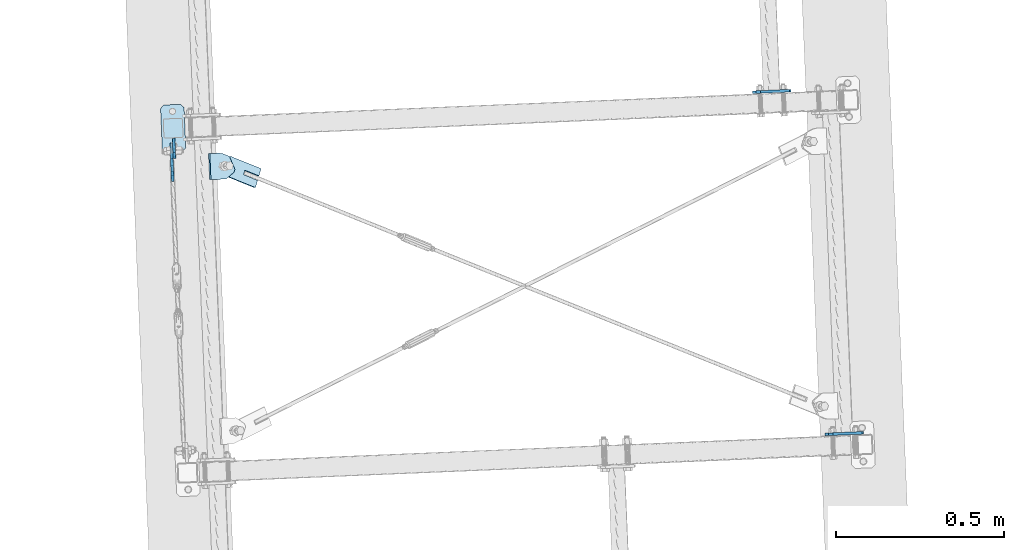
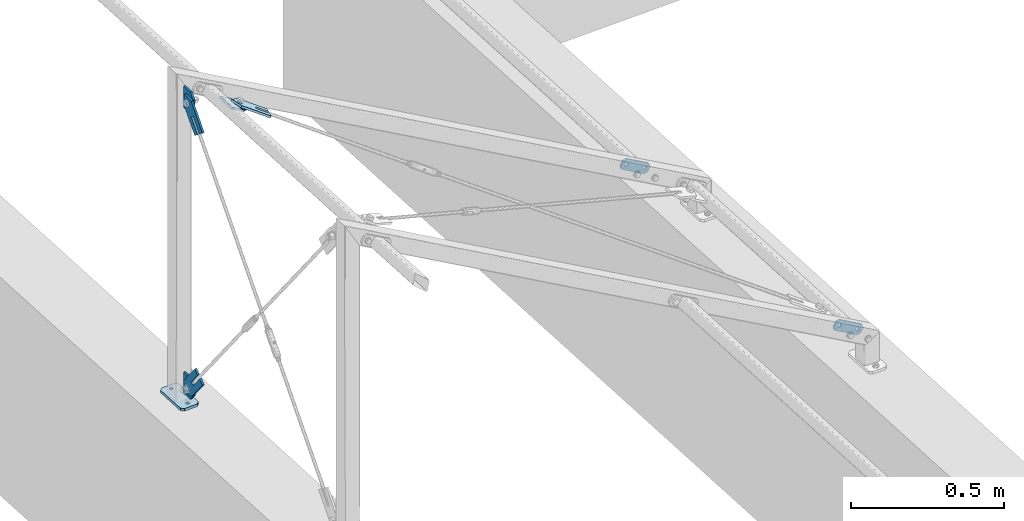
# One storey, part 49 of 288: 9 plates, 38 openings.
"""IFC2X3 building model written with IfcOpenShell, lengths in millimetres."""

from ifc_helpers import new_model, entity, si_unit, converted_unit, point, frame, frame_2d, origin, origin_with_axes, origin_2d_with_axis, place, context, project, spatial, polyline, circle_curve, line_curve, trimmed, segment, composite_curve, circle, outline, extrude, material, layer, layer_set, element, save


model = new_model("IFC2X3")

# Units and contexts
model_context = context("Model", 3, precision=1e-09, world=origin_with_axes())
ifc_project = project(units=[si_unit("LENGTHUNIT", "METRE", prefix="MILLI"), si_unit("AREAUNIT", "SQUARE_METRE"), si_unit("VOLUMEUNIT", "CUBIC_METRE"), converted_unit("PLANEANGLEUNIT", "DEGREE", entity("IfcPlaneAngleMeasure", 0.01745329), si_unit("PLANEANGLEUNIT", "RADIAN"), dimensions=[0, 0, 0, 0, 0, 0, 0])], contexts=[model_context])

# Site, building, storey
site_placement = place(None, origin_with_axes())
site = spatial("IfcSite", under=ifc_project, at=site_placement, Name="Remont ?wietlik?w nad MC w NCPP w Opolu", CompositionType="ELEMENT")
building_placement = place(site_placement, origin_with_axes())
building = spatial("IfcBuilding", under=site, at=building_placement, Name="Konstrukcja 1", CompositionType="ELEMENT")
storey_placement = place(building_placement, origin_with_axes())
storey = spatial("IfcBuildingStorey", under=building, at=storey_placement, Name="Default Storey", CompositionType="ELEMENT", Elevation=0.0)

# Plate, openings
ifc_material = material(Name="S235")
ifc_layer_1 = layer(ifc_material, 8.0)
ifc_layer_set_1 = layer_set([ifc_layer_1], Name="S235")
plate_1_placement = place(None, frame((1338.324064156, 10371.740296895, 149.752306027), z_axis=(-0.041662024, 0.999131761, 1.7472e-05), x_axis=(0.499566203, 0.020815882, 0.866025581)))
plate_1 = element("IfcPlate", 1, at=plate_1_placement, inside=storey, material=ifc_layer_set_1, Name="-", ObjectType="-", context=model_context, shape_type="SweptSolid", body=[
    extrude(outline(polyline([(0.0, 0.0), (40.0, 0.0), (40.0, 120.0), (0.0, 120.0), (0.0, 0.0)])), origin_with_axes(), (0.0, 0.0, 1.0), 8.0),
])
opening_1_placement = place(plate_1_placement, frame((0.0, 0.0, -0.01), z_axis=(0.0, 0.0, 1.0), x_axis=(1.0, 0.0, 0.0)))
element("IfcOpeningElement", 2, at=opening_1_placement, cuts=plate_1, ObjectType="Opening", context=model_context, shape_type="SweptSolid", body=[
    extrude(outline(composite_curve([segment(trimmed(line_curve((40.0, 0.0), (0.0, 1.0), 10.0), [point((40.0, 0.0))], [point((40.0, 10.0))], True, "CARTESIAN"), True, "CONTINUOUS"), segment(trimmed(circle_curve(frame_2d((30.0, 10.0), x_axis=(-1.0, 0.0)), 10.0), [point((40.0, 10.0))], [point((30.0, 0.0))], False, "CARTESIAN"), True, "CONTINUOUS"), segment(trimmed(line_curve((30.0, 0.0), (1.0, 0.0), 10.0), [point((30.0, 0.0))], [point((40.0, 0.0))], True, "CARTESIAN"), True, "CONTINUOUS")], self_intersect=False)), origin(), (0.0, 0.0, 1.0), 8.02),
])
opening_2_placement = place(plate_1_placement, frame((0.0, 0.0, -0.01), z_axis=(0.0, 0.0, 1.0), x_axis=(1.0, 0.0, 0.0)))
element("IfcOpeningElement", 3, at=opening_2_placement, cuts=plate_1, ObjectType="Opening", context=model_context, shape_type="SweptSolid", body=[
    extrude(outline(composite_curve([segment(trimmed(line_curve((0.0, 0.0), (1.0, 0.0), 10.0), [point((0.0, 0.0))], [point((10.0, 0.0))], True, "CARTESIAN"), True, "CONTINUOUS"), segment(trimmed(circle_curve(frame_2d((10.0, 10.0), x_axis=(-1.0, 0.0)), 10.0), [point((10.0, 0.0))], [point((0.0, 10.0))], False, "CARTESIAN"), True, "CONTINUOUS"), segment(trimmed(line_curve((0.0, 10.0), (0.0, -1.0), 10.0), [point((0.0, 10.0))], [point((0.0, 0.0))], True, "CARTESIAN"), True, "CONTINUOUS")], self_intersect=False)), origin(), (0.0, 0.0, 1.0), 8.02),
])
opening_3_placement = place(plate_1_placement, frame((0.0, 0.0, -0.01), z_axis=(0.0, 0.0, 1.0), x_axis=(1.0, 0.0, 0.0)))
element("IfcOpeningElement", 4, at=opening_3_placement, cuts=plate_1, ObjectType="Opening", context=model_context, shape_type="SweptSolid", body=[
    extrude(outline(composite_curve([segment(trimmed(line_curve((40.0, 120.0), (-1.0, 0.0), 10.0), [point((40.0, 120.0))], [point((30.0, 120.0))], True, "CARTESIAN"), True, "CONTINUOUS"), segment(trimmed(circle_curve(frame_2d((30.0, 110.0), x_axis=(-1.0, 0.0)), 10.0), [point((30.0, 120.0))], [point((40.0, 110.0))], False, "CARTESIAN"), True, "CONTINUOUS"), segment(trimmed(line_curve((40.0, 110.0), (0.0, 1.0), 10.0), [point((40.0, 110.0))], [point((40.0, 120.0))], True, "CARTESIAN"), True, "CONTINUOUS")], self_intersect=False)), origin(), (0.0, 0.0, 1.0), 8.02),
])
opening_4_placement = place(plate_1_placement, frame((0.0, 0.0, -0.01), z_axis=(0.0, 0.0, 1.0), x_axis=(1.0, 0.0, 0.0)))
element("IfcOpeningElement", 5, at=opening_4_placement, cuts=plate_1, ObjectType="Opening", context=model_context, shape_type="SweptSolid", body=[
    extrude(outline(composite_curve([segment(trimmed(line_curve((0.0, 120.0), (0.0, -1.0), 10.0), [point((0.0, 120.0))], [point((0.0, 110.0))], True, "CARTESIAN"), True, "CONTINUOUS"), segment(trimmed(circle_curve(frame_2d((10.0, 110.0), x_axis=(-1.0, 0.0)), 10.0), [point((0.0, 110.0))], [point((10.0, 120.0))], False, "CARTESIAN"), True, "CONTINUOUS"), segment(trimmed(line_curve((10.0, 120.0), (-1.0, 0.0), 10.0), [point((10.0, 120.0))], [point((0.0, 120.0))], True, "CARTESIAN"), True, "CONTINUOUS")], self_intersect=False)), origin(), (0.0, 0.0, 1.0), 8.02),
])
opening_5_placement = place(plate_1_placement, frame((19.99842578, 27.001033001, 8.499903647), z_axis=(-2.0054e-05, 4.2e-07, 1.0), x_axis=(1.0, 0.0, 2.0054e-05)))
element("IfcOpeningElement", 6, at=opening_5_placement, cuts=plate_1, ObjectType="Opening", context=model_context, shape_type="SweptSolid", body=[
    extrude(circle(Radius=7.001, at=frame_2d((-4e-09, -7.001), x_axis=(1.0, 0.0))), origin(), (0.0, 0.0, -1.0), 9.000033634),
])
opening_6_placement = place(plate_1_placement, frame((19.998425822, 107.001033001, 8.499870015), z_axis=(-2.0054e-05, 4.2e-07, 1.0), x_axis=(1.0, 0.0, 2.0054e-05)))
element("IfcOpeningElement", 7, at=opening_6_placement, cuts=plate_1, ObjectType="Opening", context=model_context, shape_type="SweptSolid", body=[
    extrude(circle(Radius=7.001, at=frame_2d((-4e-09, -7.001), x_axis=(1.0, 0.0))), origin(), (0.0, 0.0, -1.0), 9.000033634),
])

plate_2_placement = place(None, frame((1122.531028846, 11389.467105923, 249.77016734), z_axis=(-0.041662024, 0.999131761, 1.7472e-05), x_axis=(0.499566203, 0.020815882, 0.866025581)))
plate_2 = element("IfcPlate", 8, at=plate_2_placement, inside=storey, material=ifc_layer_set_1, Name="-", ObjectType="-", context=model_context, shape_type="SweptSolid", body=[
    extrude(outline(polyline([(0.0, 0.0), (40.0, 0.0), (40.0, 120.0), (0.0, 120.0), (0.0, 0.0)])), origin_with_axes(), (0.0, 0.0, 1.0), 8.0),
])
opening_7_placement = place(plate_2_placement, frame((0.0, 0.0, -0.01), z_axis=(0.0, 0.0, 1.0), x_axis=(1.0, 0.0, 0.0)))
element("IfcOpeningElement", 9, at=opening_7_placement, cuts=plate_2, ObjectType="Opening", context=model_context, shape_type="SweptSolid", body=[
    extrude(outline(composite_curve([segment(trimmed(line_curve((40.0, 0.0), (0.0, 1.0), 10.0), [point((40.0, 0.0))], [point((40.0, 10.0))], True, "CARTESIAN"), True, "CONTINUOUS"), segment(trimmed(circle_curve(frame_2d((30.0, 10.0), x_axis=(-1.0, 0.0)), 10.0), [point((40.0, 10.0))], [point((30.0, 0.0))], False, "CARTESIAN"), True, "CONTINUOUS"), segment(trimmed(line_curve((30.0, 0.0), (1.0, 0.0), 10.0), [point((30.0, 0.0))], [point((40.0, 0.0))], True, "CARTESIAN"), True, "CONTINUOUS")], self_intersect=False)), origin(), (0.0, 0.0, 1.0), 8.02),
])
opening_8_placement = place(plate_2_placement, frame((0.0, 0.0, -0.01), z_axis=(0.0, 0.0, 1.0), x_axis=(1.0, 0.0, 0.0)))
element("IfcOpeningElement", 10, at=opening_8_placement, cuts=plate_2, ObjectType="Opening", context=model_context, shape_type="SweptSolid", body=[
    extrude(outline(composite_curve([segment(trimmed(line_curve((0.0, 0.0), (1.0, 0.0), 10.0), [point((0.0, 0.0))], [point((10.0, 0.0))], True, "CARTESIAN"), True, "CONTINUOUS"), segment(trimmed(circle_curve(frame_2d((10.0, 10.0), x_axis=(-1.0, 0.0)), 10.0), [point((10.0, 0.0))], [point((0.0, 10.0))], False, "CARTESIAN"), True, "CONTINUOUS"), segment(trimmed(line_curve((0.0, 10.0), (0.0, -1.0), 10.0), [point((0.0, 10.0))], [point((0.0, 0.0))], True, "CARTESIAN"), True, "CONTINUOUS")], self_intersect=False)), origin(), (0.0, 0.0, 1.0), 8.02),
])
opening_9_placement = place(plate_2_placement, frame((0.0, 0.0, -0.01), z_axis=(0.0, 0.0, 1.0), x_axis=(1.0, 0.0, 0.0)))
element("IfcOpeningElement", 11, at=opening_9_placement, cuts=plate_2, ObjectType="Opening", context=model_context, shape_type="SweptSolid", body=[
    extrude(outline(composite_curve([segment(trimmed(line_curve((40.0, 120.0), (-1.0, 0.0), 10.0), [point((40.0, 120.0))], [point((30.0, 120.0))], True, "CARTESIAN"), True, "CONTINUOUS"), segment(trimmed(circle_curve(frame_2d((30.0, 110.0), x_axis=(-1.0, 0.0)), 10.0), [point((30.0, 120.0))], [point((40.0, 110.0))], False, "CARTESIAN"), True, "CONTINUOUS"), segment(trimmed(line_curve((40.0, 110.0), (0.0, 1.0), 10.0), [point((40.0, 110.0))], [point((40.0, 120.0))], True, "CARTESIAN"), True, "CONTINUOUS")], self_intersect=False)), origin(), (0.0, 0.0, 1.0), 8.02),
])
opening_10_placement = place(plate_2_placement, frame((0.0, 0.0, -0.01), z_axis=(0.0, 0.0, 1.0), x_axis=(1.0, 0.0, 0.0)))
element("IfcOpeningElement", 12, at=opening_10_placement, cuts=plate_2, ObjectType="Opening", context=model_context, shape_type="SweptSolid", body=[
    extrude(outline(composite_curve([segment(trimmed(line_curve((0.0, 120.0), (0.0, -1.0), 10.0), [point((0.0, 120.0))], [point((0.0, 110.0))], True, "CARTESIAN"), True, "CONTINUOUS"), segment(trimmed(circle_curve(frame_2d((10.0, 110.0), x_axis=(-1.0, 0.0)), 10.0), [point((0.0, 110.0))], [point((10.0, 120.0))], False, "CARTESIAN"), True, "CONTINUOUS"), segment(trimmed(line_curve((10.0, 120.0), (-1.0, 0.0), 10.0), [point((10.0, 120.0))], [point((0.0, 120.0))], True, "CARTESIAN"), True, "CONTINUOUS")], self_intersect=False)), origin(), (0.0, 0.0, 1.0), 8.02),
])
opening_11_placement = place(plate_2_placement, frame((19.99842578, 27.001033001, 8.499903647), z_axis=(-2.0054e-05, 4.2e-07, 1.0), x_axis=(1.0, 0.0, 2.0054e-05)))
element("IfcOpeningElement", 13, at=opening_11_placement, cuts=plate_2, ObjectType="Opening", context=model_context, shape_type="SweptSolid", body=[
    extrude(circle(Radius=7.001, at=frame_2d((-4e-09, -7.001), x_axis=(1.0, 0.0))), origin(), (0.0, 0.0, -1.0), 9.000033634),
])
opening_12_placement = place(plate_2_placement, frame((19.998425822, 107.001033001, 8.499870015), z_axis=(-2.0054e-05, 4.2e-07, 1.0), x_axis=(1.0, 0.0, 2.0054e-05)))
element("IfcOpeningElement", 14, at=opening_12_placement, cuts=plate_2, ObjectType="Opening", context=model_context, shape_type="SweptSolid", body=[
    extrude(circle(Radius=7.001, at=frame_2d((-4e-09, -7.001), x_axis=(1.0, 0.0))), origin(), (0.0, 0.0, -1.0), 9.000033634),
])

ifc_layer_2 = layer(ifc_material, 10.0)
ifc_layer_set_2 = layer_set([ifc_layer_2], Name="S235")
plate_3_placement = place(None, frame((-633.74490734, 11355.250119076, 10.000000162), z_axis=(0.0, 0.0, -1.0), x_axis=(0.999131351, 0.041671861, 0.0)))
plate_3 = element("IfcPlate", 15, at=plate_3_placement, inside=storey, material=ifc_layer_set_2, Name="Baseplate", ObjectType="Baseplate", context=model_context, shape_type="SweptSolid", body=[
    extrude(outline(polyline([(0.0, 0.0), (70.0, 0.0), (70.0, 140.0), (0.0, 140.0), (0.0, 0.0)])), origin_with_axes(), (0.0, 0.0, 1.0), 10.0),
])
opening_13_placement = place(plate_3_placement, frame((0.0, 0.0, -0.01), z_axis=(0.0, 0.0, 1.0), x_axis=(1.0, 0.0, 0.0)))
element("IfcOpeningElement", 16, at=opening_13_placement, cuts=plate_3, ObjectType="Opening", context=model_context, shape_type="SweptSolid", body=[
    extrude(outline(composite_curve([segment(trimmed(line_curve((70.0, 0.0), (0.0, 1.0), 10.0), [point((70.0, 0.0))], [point((70.0, 10.0))], True, "CARTESIAN"), True, "CONTINUOUS"), segment(trimmed(circle_curve(frame_2d((60.0, 10.0), x_axis=(-1.0, 0.0)), 10.0), [point((70.0, 10.0))], [point((60.0, 0.0))], False, "CARTESIAN"), True, "CONTINUOUS"), segment(trimmed(line_curve((60.0, 0.0), (1.0, 0.0), 10.0), [point((60.0, 0.0))], [point((70.0, 0.0))], True, "CARTESIAN"), True, "CONTINUOUS")], self_intersect=False)), origin(), (0.0, 0.0, 1.0), 10.02),
])
opening_14_placement = place(plate_3_placement, frame((0.0, 0.0, -0.01), z_axis=(0.0, 0.0, 1.0), x_axis=(1.0, 0.0, 0.0)))
element("IfcOpeningElement", 17, at=opening_14_placement, cuts=plate_3, ObjectType="Opening", context=model_context, shape_type="SweptSolid", body=[
    extrude(outline(composite_curve([segment(trimmed(line_curve((0.0, 0.0), (1.0, 0.0), 10.0), [point((0.0, 0.0))], [point((10.0, 0.0))], True, "CARTESIAN"), True, "CONTINUOUS"), segment(trimmed(circle_curve(frame_2d((10.0, 10.0), x_axis=(-1.0, 0.0)), 10.0), [point((10.0, 0.0))], [point((0.0, 10.0))], False, "CARTESIAN"), True, "CONTINUOUS"), segment(trimmed(line_curve((0.0, 10.0), (0.0, -1.0), 10.0), [point((0.0, 10.0))], [point((0.0, 0.0))], True, "CARTESIAN"), True, "CONTINUOUS")], self_intersect=False)), origin(), (0.0, 0.0, 1.0), 10.02),
])
opening_15_placement = place(plate_3_placement, frame((0.0, 0.0, -0.01), z_axis=(0.0, 0.0, 1.0), x_axis=(1.0, 0.0, 0.0)))
element("IfcOpeningElement", 18, at=opening_15_placement, cuts=plate_3, ObjectType="Opening", context=model_context, shape_type="SweptSolid", body=[
    extrude(outline(composite_curve([segment(trimmed(line_curve((70.0, 140.0), (-1.0, 0.0), 10.0), [point((70.0, 140.0))], [point((60.0, 140.0))], True, "CARTESIAN"), True, "CONTINUOUS"), segment(trimmed(circle_curve(frame_2d((60.0, 130.0), x_axis=(-1.0, 0.0)), 10.0), [point((60.0, 140.0))], [point((70.0, 130.0))], False, "CARTESIAN"), True, "CONTINUOUS"), segment(trimmed(line_curve((70.0, 130.0), (0.0, 1.0), 10.0), [point((70.0, 130.0))], [point((70.0, 140.0))], True, "CARTESIAN"), True, "CONTINUOUS")], self_intersect=False)), origin(), (0.0, 0.0, 1.0), 10.02),
])
opening_16_placement = place(plate_3_placement, frame((0.0, 0.0, -0.01), z_axis=(0.0, 0.0, 1.0), x_axis=(1.0, 0.0, 0.0)))
element("IfcOpeningElement", 19, at=opening_16_placement, cuts=plate_3, ObjectType="Opening", context=model_context, shape_type="SweptSolid", body=[
    extrude(outline(composite_curve([segment(trimmed(line_curve((0.0, 140.0), (0.0, -1.0), 10.0), [point((0.0, 140.0))], [point((0.0, 130.0))], True, "CARTESIAN"), True, "CONTINUOUS"), segment(trimmed(circle_curve(frame_2d((10.0, 130.0), x_axis=(-1.0, 0.0)), 10.0), [point((0.0, 130.0))], [point((10.0, 140.0))], False, "CARTESIAN"), True, "CONTINUOUS"), segment(trimmed(line_curve((10.0, 140.0), (-1.0, 0.0), 10.0), [point((10.0, 140.0))], [point((0.0, 140.0))], True, "CARTESIAN"), True, "CONTINUOUS")], self_intersect=False)), origin(), (0.0, 0.0, 1.0), 10.02),
])
opening_17_placement = place(plate_3_placement, frame((35.0, 20.0, 10.5), z_axis=(0.0, 0.0, -1.0), x_axis=(1.0, 0.0, 0.0)))
element("IfcOpeningElement", 20, at=opening_17_placement, cuts=plate_3, ObjectType="Opening", context=model_context, shape_type="SweptSolid", body=[
    extrude(circle(Radius=6.001, at=origin_2d_with_axis()), origin(), (0.0, 0.0, 1.0), 11.0),
])
opening_18_placement = place(plate_3_placement, frame((35.0, 120.0, 10.5), z_axis=(0.0, 0.0, -1.0), x_axis=(1.0, 0.0, 0.0)))
element("IfcOpeningElement", 21, at=opening_18_placement, cuts=plate_3, ObjectType="Opening", context=model_context, shape_type="SweptSolid", body=[
    extrude(circle(Radius=6.001, at=origin_2d_with_axis()), origin(), (0.0, 0.0, 1.0), 11.0),
])

plate_4_placement = place(None, frame((-601.2421651, 11127.890252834, 1154.494492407), z_axis=(0.999131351, 0.041671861, 0.0), x_axis=(-0.03279022, 0.786183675, -0.617122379)))
plate_4 = element("IfcPlate", 22, at=plate_4_placement, inside=storey, material=ifc_layer_set_1, Name="Tab_Plate#2", ObjectType="Tab_Plate#2", context=model_context, shape_type="SweptSolid", body=[
    extrude(outline(polyline([(0.0, 0.0), (60.0, 0.0), (60.0, 140.0), (0.0, 140.0), (0.0, 0.0)])), origin_with_axes(), (0.0, 0.0, 1.0), 8.0),
])
opening_19_placement = place(plate_4_placement, frame((0.0, 0.0, -0.01), z_axis=(0.0, 0.0, 1.0), x_axis=(1.0, 0.0, 0.0)))
element("IfcOpeningElement", 23, at=opening_19_placement, cuts=plate_4, ObjectType="Opening", context=model_context, shape_type="SweptSolid", body=[
    extrude(outline(composite_curve([segment(trimmed(line_curve((60.0, 140.0), (-1.0, 0.0), 30.0), [point((60.0, 140.0))], [point((30.0, 140.0))], True, "CARTESIAN"), True, "CONTINUOUS"), segment(trimmed(circle_curve(frame_2d((30.0, 110.0), x_axis=(-1.0, 0.0)), 30.0), [point((30.0, 140.0))], [point((60.0, 110.0))], False, "CARTESIAN"), True, "CONTINUOUS"), segment(trimmed(line_curve((60.0, 110.0), (0.0, 1.0), 30.0), [point((60.0, 110.0))], [point((60.0, 140.0))], True, "CARTESIAN"), True, "CONTINUOUS")], self_intersect=False)), origin(), (0.0, 0.0, 1.0), 8.02),
])
opening_20_placement = place(plate_4_placement, frame((0.0, 0.0, -0.01), z_axis=(0.0, 0.0, 1.0), x_axis=(1.0, 0.0, 0.0)))
element("IfcOpeningElement", 24, at=opening_20_placement, cuts=plate_4, ObjectType="Opening", context=model_context, shape_type="SweptSolid", body=[
    extrude(outline(composite_curve([segment(trimmed(line_curve((0.0, 140.0), (0.0, -1.0), 30.0), [point((0.0, 140.0))], [point((0.0, 110.0))], True, "CARTESIAN"), True, "CONTINUOUS"), segment(trimmed(circle_curve(frame_2d((30.0, 110.0), x_axis=(-1.0, 0.0)), 30.0), [point((0.0, 110.0))], [point((30.0, 140.0))], False, "CARTESIAN"), True, "CONTINUOUS"), segment(trimmed(line_curve((30.0, 140.0), (-1.0, 0.0), 30.0), [point((30.0, 140.0))], [point((0.0, 140.0))], True, "CARTESIAN"), True, "CONTINUOUS")], self_intersect=False)), origin(), (0.0, 0.0, 1.0), 8.02),
])
opening_21_placement = place(plate_4_placement, frame((0.0, 0.0, 8.1), z_axis=(0.0, 0.0, -1.0), x_axis=(-0.786867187, -0.617122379, 0.0)))
element("IfcOpeningElement", 25, at=opening_21_placement, cuts=plate_4, ObjectType="Opening", context=model_context, shape_type="SweptSolid", body=[
    extrude(outline(polyline([(-55.742240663, 33.80648766), (-66.75995501, 25.16554011), (-29.114255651, -22.83493201), (-18.096541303, -14.19398446), (-55.742240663, 33.80648766)])), origin(), (0.0, 0.0, 1.0), 8.2),
])
opening_22_placement = place(plate_4_placement, frame((30.0, 110.0, 8.5), z_axis=(0.0, 0.0, -1.0), x_axis=(0.0, -1.0, 0.0)))
element("IfcOpeningElement", 26, at=opening_22_placement, cuts=plate_4, ObjectType="Opening", context=model_context, shape_type="SweptSolid", body=[
    extrude(circle(Radius=9.001, at=origin_2d_with_axis()), origin(), (0.0, 0.0, 1.0), 9.0),
])

plate_5_placement = place(None, frame((-589.280807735, 11225.054928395, 1180.416524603), z_axis=(-0.999131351, -0.041671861, 0.0), x_axis=(0.03279022, -0.786183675, 0.617122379)))
plate_5 = element("IfcPlate", 27, at=plate_5_placement, inside=storey, material=ifc_layer_set_1, Name="Gusset#2", ObjectType="Gusset#2", context=model_context, shape_type="SweptSolid", body=[
    extrude(outline(polyline([(0.0, 0.0), (60.0, 0.0), (60.0, 60.0), (26.857400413, 85.993001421), (-25.128602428, 19.707802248), (0.0, 0.0)])), origin_with_axes(), (0.0, 0.0, 1.0), 8.0),
])
opening_23_placement = place(plate_5_placement, frame((30.0, 30.0, -0.5), z_axis=(0.0, 0.0, 1.0), x_axis=(0.0, -1.0, 0.0)))
element("IfcOpeningElement", 28, at=opening_23_placement, cuts=plate_5, ObjectType="Opening", context=model_context, shape_type="SweptSolid", body=[
    extrude(circle(Radius=9.001, at=origin_2d_with_axis()), origin(), (0.0, 0.0, 1.0), 9.0),
])
opening_24_placement = place(plate_5_placement, frame((0.0, 0.0, -0.01), z_axis=(0.0, 0.0, 1.0), x_axis=(1.0, 0.0, 0.0)))
element("IfcOpeningElement", 29, at=opening_24_placement, cuts=plate_5, ObjectType="Opening", context=model_context, shape_type="SweptSolid", body=[
    extrude(outline(composite_curve([segment(trimmed(line_curve((60.0, 0.0), (0.0, 1.0), 30.0), [point((60.0, 0.0))], [point((60.0, 30.0))], True, "CARTESIAN"), True, "CONTINUOUS"), segment(trimmed(circle_curve(frame_2d((30.0, 30.0), x_axis=(-1.0, 0.0)), 30.0), [point((60.0, 30.0))], [point((30.0, 0.0))], False, "CARTESIAN"), True, "CONTINUOUS"), segment(trimmed(line_curve((30.0, 0.0), (1.0, 0.0), 30.0), [point((30.0, 0.0))], [point((60.0, 0.0))], True, "CARTESIAN"), True, "CONTINUOUS")], self_intersect=False)), origin(), (0.0, 0.0, 1.0), 8.02),
])

plate_6_placement = place(None, frame((-592.943832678, 11128.365897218, 150.680066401), z_axis=(-0.999146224, -0.04131371, 0.0), x_axis=(-0.03253731, 0.786894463, 0.616229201)))
plate_6 = element("IfcPlate", 30, at=plate_6_placement, inside=storey, material=ifc_layer_set_1, Name="Tab_Plate#1", ObjectType="Tab_Plate#1", context=model_context, shape_type="SweptSolid", body=[
    extrude(outline(polyline([(0.0, 0.0), (60.0, 0.0), (60.0, 140.0), (0.0, 140.0), (0.0, 0.0)])), origin_with_axes(), (0.0, 0.0, 1.0), 8.0),
])
opening_25_placement = place(plate_6_placement, frame((0.0, 0.0, -0.01), z_axis=(0.0, 0.0, 1.0), x_axis=(1.0, 0.0, 0.0)))
element("IfcOpeningElement", 31, at=opening_25_placement, cuts=plate_6, ObjectType="Opening", context=model_context, shape_type="SweptSolid", body=[
    extrude(outline(composite_curve([segment(trimmed(line_curve((60.0, 140.0), (-1.0, 0.0), 30.0), [point((60.0, 140.0))], [point((30.0, 140.0))], True, "CARTESIAN"), True, "CONTINUOUS"), segment(trimmed(circle_curve(frame_2d((30.0, 110.0), x_axis=(-1.0, 0.0)), 30.0), [point((30.0, 140.0))], [point((60.0, 110.0))], False, "CARTESIAN"), True, "CONTINUOUS"), segment(trimmed(line_curve((60.0, 110.0), (0.0, 1.0), 30.0), [point((60.0, 110.0))], [point((60.0, 140.0))], True, "CARTESIAN"), True, "CONTINUOUS")], self_intersect=False)), origin(), (0.0, 0.0, 1.0), 8.02),
])
opening_26_placement = place(plate_6_placement, frame((0.0, 0.0, -0.01), z_axis=(0.0, 0.0, 1.0), x_axis=(1.0, 0.0, 0.0)))
element("IfcOpeningElement", 32, at=opening_26_placement, cuts=plate_6, ObjectType="Opening", context=model_context, shape_type="SweptSolid", body=[
    extrude(outline(composite_curve([segment(trimmed(line_curve((0.0, 140.0), (0.0, -1.0), 30.0), [point((0.0, 140.0))], [point((0.0, 110.0))], True, "CARTESIAN"), True, "CONTINUOUS"), segment(trimmed(circle_curve(frame_2d((30.0, 110.0), x_axis=(-1.0, 0.0)), 30.0), [point((0.0, 110.0))], [point((30.0, 140.0))], False, "CARTESIAN"), True, "CONTINUOUS"), segment(trimmed(line_curve((30.0, 140.0), (-1.0, 0.0), 30.0), [point((30.0, 140.0))], [point((0.0, 140.0))], True, "CARTESIAN"), True, "CONTINUOUS")], self_intersect=False)), origin(), (0.0, 0.0, 1.0), 8.02),
])
opening_27_placement = place(plate_6_placement, frame((0.0, 0.0, 8.1), z_axis=(0.0, 0.0, -1.0), x_axis=(0.787566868, 0.616229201, 0.0)))
element("IfcOpeningElement", 33, at=opening_27_placement, cuts=plate_6, ObjectType="Opening", context=model_context, shape_type="SweptSolid", body=[
    extrude(outline(polyline([(55.703847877, -33.869711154), (66.731359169, -25.241269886), (29.140145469, 22.801884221), (18.112634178, 14.173442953), (55.703847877, -33.869711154)])), origin(), (0.0, 0.0, 1.0), 8.2),
])
opening_28_placement = place(plate_6_placement, frame((30.0, 110.0, 8.5), z_axis=(0.0, 0.0, -1.0), x_axis=(0.0, -1.0, 0.0)))
element("IfcOpeningElement", 34, at=opening_28_placement, cuts=plate_6, ObjectType="Opening", context=model_context, shape_type="SweptSolid", body=[
    extrude(circle(Radius=9.001, at=origin_2d_with_axis()), origin(), (0.0, 0.0, 1.0), 9.0),
])

plate_7_placement = place(None, frame((-596.932768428, 11224.835811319, 124.648468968), z_axis=(0.999146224, 0.04131371, 0.0), x_axis=(0.03253731, -0.786894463, -0.616229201)))
plate_7 = element("IfcPlate", 35, at=plate_7_placement, inside=storey, material=ifc_layer_set_1, Name="Gusset#1", ObjectType="Gusset#1", context=model_context, shape_type="SweptSolid", body=[
    extrude(outline(polyline([(0.0, 0.0), (60.0, 0.0), (60.0, 60.0), (26.831372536, 85.95268746), (-25.072235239, 19.617691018), (0.0, 0.0)])), origin_with_axes(), (0.0, 0.0, 1.0), 8.0),
])
opening_29_placement = place(plate_7_placement, frame((30.0, 30.0, -0.5), z_axis=(0.0, 0.0, 1.0), x_axis=(0.0, -1.0, 0.0)))
element("IfcOpeningElement", 36, at=opening_29_placement, cuts=plate_7, ObjectType="Opening", context=model_context, shape_type="SweptSolid", body=[
    extrude(circle(Radius=9.001, at=origin_2d_with_axis()), origin(), (0.0, 0.0, 1.0), 9.0),
])
opening_30_placement = place(plate_7_placement, frame((0.0, 0.0, -0.01), z_axis=(0.0, 0.0, 1.0), x_axis=(1.0, 0.0, 0.0)))
element("IfcOpeningElement", 37, at=opening_30_placement, cuts=plate_7, ObjectType="Opening", context=model_context, shape_type="SweptSolid", body=[
    extrude(outline(composite_curve([segment(trimmed(line_curve((60.0, 0.0), (0.0, 1.0), 30.0), [point((60.0, 0.0))], [point((60.0, 30.0))], True, "CARTESIAN"), True, "CONTINUOUS"), segment(trimmed(circle_curve(frame_2d((30.0, 30.0), x_axis=(-1.0, 0.0)), 30.0), [point((60.0, 30.0))], [point((30.0, 0.0))], False, "CARTESIAN"), True, "CONTINUOUS"), segment(trimmed(line_curve((30.0, 0.0), (1.0, 0.0), 30.0), [point((30.0, 0.0))], [point((60.0, 0.0))], True, "CARTESIAN"), True, "CONTINUOUS")], self_intersect=False)), origin(), (0.0, 0.0, 1.0), 8.02),
])

plate_8_placement = place(None, frame((-334.339980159, 11166.547449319, 1135.609848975), z_axis=(-0.500767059, -0.020865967, -0.865330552), x_axis=(-0.277016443, -0.943267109, 0.183054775)))
plate_8 = element("IfcPlate", 38, at=plate_8_placement, inside=storey, material=ifc_layer_set_1, Name="Tab_Plate#1", ObjectType="Tab_Plate#1", context=model_context, shape_type="SweptSolid", body=[
    extrude(outline(polyline([(0.0, 0.0), (60.0, 0.0), (60.0, 140.0), (0.0, 140.0), (0.0, 0.0)])), origin_with_axes(), (0.0, 0.0, 1.0), 8.0),
])
opening_31_placement = place(plate_8_placement, frame((0.0, 0.0, -0.01), z_axis=(0.0, 0.0, 1.0), x_axis=(1.0, 0.0, 0.0)))
element("IfcOpeningElement", 39, at=opening_31_placement, cuts=plate_8, ObjectType="Opening", context=model_context, shape_type="SweptSolid", body=[
    extrude(outline(composite_curve([segment(trimmed(line_curve((60.0, 140.0), (-1.0, 0.0), 30.0), [point((60.0, 140.0))], [point((30.0, 140.0))], True, "CARTESIAN"), True, "CONTINUOUS"), segment(trimmed(circle_curve(frame_2d((30.0, 110.0), x_axis=(-1.0, 0.0)), 30.0), [point((30.0, 140.0))], [point((60.0, 110.0))], False, "CARTESIAN"), True, "CONTINUOUS"), segment(trimmed(line_curve((60.0, 110.0), (0.0, 1.0), 30.0), [point((60.0, 110.0))], [point((60.0, 140.0))], True, "CARTESIAN"), True, "CONTINUOUS")], self_intersect=False)), origin(), (0.0, 0.0, 1.0), 8.02),
])
opening_32_placement = place(plate_8_placement, frame((0.0, 0.0, -0.01), z_axis=(0.0, 0.0, 1.0), x_axis=(1.0, 0.0, 0.0)))
element("IfcOpeningElement", 40, at=opening_32_placement, cuts=plate_8, ObjectType="Opening", context=model_context, shape_type="SweptSolid", body=[
    extrude(outline(composite_curve([segment(trimmed(line_curve((0.0, 140.0), (0.0, -1.0), 30.0), [point((0.0, 140.0))], [point((0.0, 110.0))], True, "CARTESIAN"), True, "CONTINUOUS"), segment(trimmed(circle_curve(frame_2d((30.0, 110.0), x_axis=(-1.0, 0.0)), 30.0), [point((0.0, 110.0))], [point((30.0, 140.0))], False, "CARTESIAN"), True, "CONTINUOUS"), segment(trimmed(line_curve((30.0, 140.0), (-1.0, 0.0), 30.0), [point((30.0, 140.0))], [point((0.0, 140.0))], True, "CARTESIAN"), True, "CONTINUOUS")], self_intersect=False)), origin(), (0.0, 0.0, 1.0), 8.02),
])
opening_33_placement = place(plate_8_placement, frame((0.0, 6e-09, 8.100000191), z_axis=(0.0, 0.0, -1.0), x_axis=(-0.930916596, 0.365231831, 0.0)))
element("IfcOpeningElement", 41, at=opening_33_placement, cuts=plate_8, ObjectType="Opening", context=model_context, shape_type="SweptSolid", body=[
    extrude(outline(polyline([(-2.782962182, 55.877644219), (-15.817656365, 60.991620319), (-34.445210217, 13.513012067), (-21.410516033, 8.399035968), (-2.782962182, 55.877644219)])), origin(), (0.0, 0.0, 1.0), 8.200000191),
])
opening_34_placement = place(plate_8_placement, frame((30.0, 110.000000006, 8.499999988), z_axis=(0.0, 0.0, -1.0), x_axis=(0.0, -1.0, 0.0)))
element("IfcOpeningElement", 42, at=opening_34_placement, cuts=plate_8, ObjectType="Opening", context=model_context, shape_type="SweptSolid", body=[
    extrude(circle(Radius=9.001, at=origin_2d_with_axis()), origin(), (0.0, 0.0, 1.0), 9.0),
])

plate_9_placement = place(None, frame((-424.577836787, 11136.127854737, 1170.073997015), z_axis=(0.500767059, 0.020865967, 0.865330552), x_axis=(0.277016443, 0.943267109, -0.183054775)))
plate_9 = element("IfcPlate", 43, at=plate_9_placement, inside=storey, material=ifc_layer_set_1, Name="Gusset#1", ObjectType="Gusset#1", context=model_context, shape_type="SweptSolid", body=[
    extrude(outline(polyline([(0.0, 0.0), (60.0, 0.0), (60.0, 60.0), (45.802767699, 96.182728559), (-26.593708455, 67.776092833), (0.0, 0.0)])), origin_with_axes(), (0.0, 0.0, 1.0), 8.0),
])
opening_35_placement = place(plate_9_placement, frame((30.0, 30.000000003, -0.499999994), z_axis=(0.0, 0.0, 1.0), x_axis=(0.0, -1.0, 0.0)))
element("IfcOpeningElement", 44, at=opening_35_placement, cuts=plate_9, ObjectType="Opening", context=model_context, shape_type="SweptSolid", body=[
    extrude(circle(Radius=9.001, at=origin_2d_with_axis()), origin(), (0.0, 0.0, 1.0), 9.0),
])
opening_36_placement = place(plate_9_placement, frame((0.0, 0.0, -0.01), z_axis=(0.0, 0.0, 1.0), x_axis=(1.0, 0.0, 0.0)))
element("IfcOpeningElement", 45, at=opening_36_placement, cuts=plate_9, ObjectType="Opening", context=model_context, shape_type="SweptSolid", body=[
    extrude(outline(composite_curve([segment(trimmed(line_curve((60.0, 60.0), (-0.365264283, 0.930903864), 5.675025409), [point((60.0, 60.0))], [point((57.927115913, 65.28290308))], True, "CARTESIAN"), True, "CONTINUOUS"), segment(trimmed(circle_curve(frame_2d((30.0, 54.324974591), x_axis=(-1.0, 0.0)), 30.0), [point((57.927115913, 65.28290308))], [point((60.0, 54.324974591))], False, "CARTESIAN"), True, "CONTINUOUS"), segment(trimmed(line_curve((60.0, 54.324974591), (0.0, 1.0), 5.675025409), [point((60.0, 54.324974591))], [point((60.0, 60.0))], True, "CARTESIAN"), True, "CONTINUOUS")], self_intersect=False)), origin(), (0.0, 0.0, 1.0), 8.02),
])
opening_37_placement = place(plate_9_placement, frame((0.0, 0.0, -0.01), z_axis=(0.0, 0.0, 1.0), x_axis=(1.0, 0.0, 0.0)))
element("IfcOpeningElement", 46, at=opening_37_placement, cuts=plate_9, ObjectType="Opening", context=model_context, shape_type="SweptSolid", body=[
    extrude(outline(composite_curve([segment(trimmed(line_curve((0.0, 0.0), (1.0, 0.0), 20.455465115), [point((0.0, 0.0))], [point((20.455465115, 0.0))], True, "CARTESIAN"), True, "CONTINUOUS"), segment(trimmed(circle_curve(frame_2d((20.455465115, 30.0), x_axis=(-1.0, 0.0)), 30.0), [point((20.455465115, 0.0))], [point((-7.471650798, 19.04207151))], False, "CARTESIAN"), True, "CONTINUOUS"), segment(trimmed(line_curve((-7.471650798, 19.04207151), (0.365264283, -0.930903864), 20.455465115), [point((-7.471650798, 19.04207151))], [point((0.0, 0.0))], True, "CARTESIAN"), True, "CONTINUOUS")], self_intersect=False)), origin(), (0.0, 0.0, 1.0), 8.02),
])
opening_38_placement = place(plate_9_placement, frame((0.0, 0.0, -0.01), z_axis=(0.0, 0.0, 1.0), x_axis=(1.0, 0.0, 0.0)))
element("IfcOpeningElement", 47, at=opening_38_placement, cuts=plate_9, ObjectType="Opening", context=model_context, shape_type="SweptSolid", body=[
    extrude(outline(composite_curve([segment(trimmed(line_curve((60.0, 0.0), (0.0, 1.0), 30.0), [point((60.0, 0.0))], [point((60.0, 30.0))], True, "CARTESIAN"), True, "CONTINUOUS"), segment(trimmed(circle_curve(frame_2d((30.0, 30.0), x_axis=(-1.0, 0.0)), 30.0), [point((60.0, 30.0))], [point((30.0, 0.0))], False, "CARTESIAN"), True, "CONTINUOUS"), segment(trimmed(line_curve((30.0, 0.0), (1.0, 0.0), 30.0), [point((30.0, 0.0))], [point((60.0, 0.0))], True, "CARTESIAN"), True, "CONTINUOUS")], self_intersect=False)), origin(), (0.0, 0.0, 1.0), 8.02),
])

save(model, "model.ifc")
